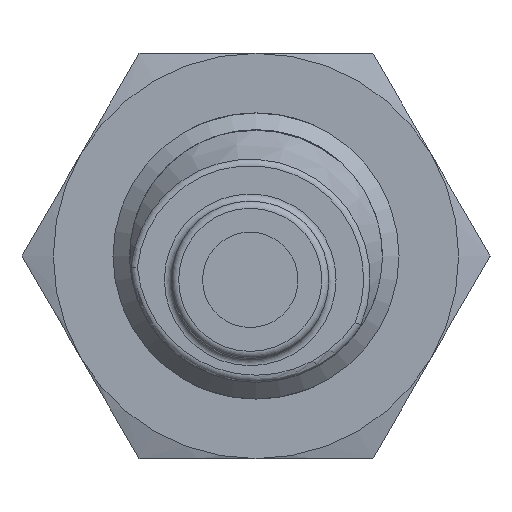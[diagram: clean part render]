
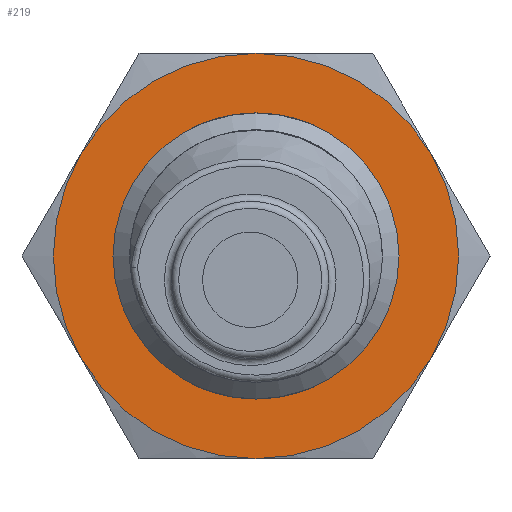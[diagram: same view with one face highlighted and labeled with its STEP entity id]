
A CAD part, left-side view. The second image highlights one B-rep face of the part: STEP entity #219.
In plain terms, the highlighted planar face has unit normal (-1, 0, 0).
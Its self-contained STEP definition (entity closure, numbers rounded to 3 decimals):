
#219 = ADVANCED_FACE( '', ( #326, #327 ), #328, .T. );
#326 = FACE_BOUND( '', #447, .T. );
#327 = FACE_OUTER_BOUND( '', #448, .T. );
#328 = PLANE( '', #449 );
#447 = EDGE_LOOP( '', ( #717 ) );
#448 = EDGE_LOOP( '', ( #718, #719, #720, #721, #722, #723 ) );
#449 = AXIS2_PLACEMENT_3D( '', #724, #725, #726 );
#717 = ORIENTED_EDGE( '', *, *, #859, .T. );
#718 = ORIENTED_EDGE( '', *, *, #860, .F. );
#719 = ORIENTED_EDGE( '', *, *, #861, .F. );
#720 = ORIENTED_EDGE( '', *, *, #822, .F. );
#721 = ORIENTED_EDGE( '', *, *, #862, .F. );
#722 = ORIENTED_EDGE( '', *, *, #825, .F. );
#723 = ORIENTED_EDGE( '', *, *, #863, .F. );
#724 = CARTESIAN_POINT( '', ( 0., 8.5, 0. ) );
#725 = DIRECTION( '', ( -1., 0., 0. ) );
#726 = DIRECTION( '', ( 0., 0., 1. ) );
#822 = EDGE_CURVE( '', #934, #932, #936, .T. );
#825 = EDGE_CURVE( '', #940, #938, #942, .T. );
#859 = EDGE_CURVE( '', #995, #995, #996, .T. );
#860 = EDGE_CURVE( '', #974, #953, #997, .T. );
#861 = EDGE_CURVE( '', #932, #974, #998, .T. );
#862 = EDGE_CURVE( '', #938, #934, #999, .T. );
#863 = EDGE_CURVE( '', #953, #940, #1000, .T. );
#932 = VERTEX_POINT( '', #1144 );
#934 = VERTEX_POINT( '', #1151 );
#936 = CIRCLE( '', #1156, 8.5 );
#938 = VERTEX_POINT( '', #1158 );
#940 = VERTEX_POINT( '', #1163 );
#942 = CIRCLE( '', #1170, 8.5 );
#953 = VERTEX_POINT( '', #1194 );
#974 = VERTEX_POINT( '', #1228 );
#995 = VERTEX_POINT( '', #1293 );
#996 = CIRCLE( '', #1294, 6. );
#997 = CIRCLE( '', #1295, 8.5 );
#998 = CIRCLE( '', #1296, 8.5 );
#999 = CIRCLE( '', #1297, 8.5 );
#1000 = CIRCLE( '', #1298, 8.5 );
#1144 = CARTESIAN_POINT( '', ( 0., 0., -8.5 ) );
#1151 = CARTESIAN_POINT( '', ( 0., -7.361, -4.25 ) );
#1156 = AXIS2_PLACEMENT_3D( '', #1380, #1381, #1382 );
#1158 = CARTESIAN_POINT( '', ( 0., -7.361, 4.25 ) );
#1163 = CARTESIAN_POINT( '', ( 0., 0., 8.5 ) );
#1170 = AXIS2_PLACEMENT_3D( '', #1383, #1384, #1385 );
#1194 = CARTESIAN_POINT( '', ( 0., 7.361, 4.25 ) );
#1228 = CARTESIAN_POINT( '', ( 0., 7.361, -4.25 ) );
#1293 = CARTESIAN_POINT( '', ( 0., 0., -6. ) );
#1294 = AXIS2_PLACEMENT_3D( '', #1413, #1414, #1415 );
#1295 = AXIS2_PLACEMENT_3D( '', #1416, #1417, #1418 );
#1296 = AXIS2_PLACEMENT_3D( '', #1419, #1420, #1421 );
#1297 = AXIS2_PLACEMENT_3D( '', #1422, #1423, #1424 );
#1298 = AXIS2_PLACEMENT_3D( '', #1425, #1426, #1427 );
#1380 = CARTESIAN_POINT( '', ( 0., 0., 0. ) );
#1381 = DIRECTION( '', ( 1., 0., 0. ) );
#1382 = DIRECTION( '', ( 0., 0., -1. ) );
#1383 = CARTESIAN_POINT( '', ( 0., 0., 0. ) );
#1384 = DIRECTION( '', ( 1., 0., 0. ) );
#1385 = DIRECTION( '', ( 0., 0., -1. ) );
#1413 = CARTESIAN_POINT( '', ( 0., 0., 0. ) );
#1414 = DIRECTION( '', ( 1., 0., 0. ) );
#1415 = DIRECTION( '', ( 0., 0., -1. ) );
#1416 = CARTESIAN_POINT( '', ( 0., 0., 0. ) );
#1417 = DIRECTION( '', ( 1., 0., 0. ) );
#1418 = DIRECTION( '', ( 0., 0., -1. ) );
#1419 = CARTESIAN_POINT( '', ( 0., 0., 0. ) );
#1420 = DIRECTION( '', ( 1., 0., 0. ) );
#1421 = DIRECTION( '', ( 0., 0., -1. ) );
#1422 = CARTESIAN_POINT( '', ( 0., 0., 0. ) );
#1423 = DIRECTION( '', ( 1., 0., 0. ) );
#1424 = DIRECTION( '', ( 0., 0., -1. ) );
#1425 = CARTESIAN_POINT( '', ( 0., 0., 0. ) );
#1426 = DIRECTION( '', ( 1., 0., 0. ) );
#1427 = DIRECTION( '', ( 0., 0., -1. ) );
